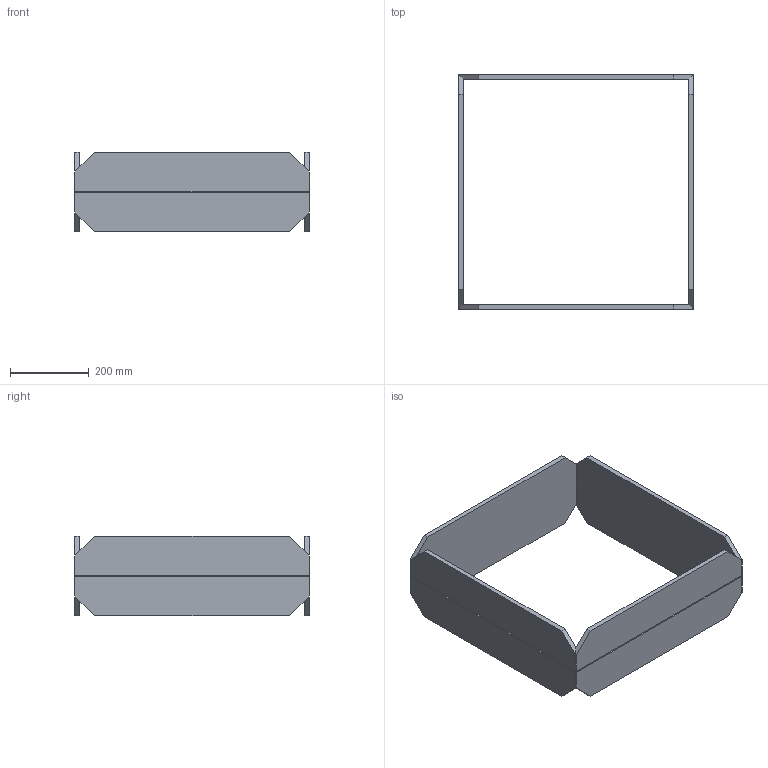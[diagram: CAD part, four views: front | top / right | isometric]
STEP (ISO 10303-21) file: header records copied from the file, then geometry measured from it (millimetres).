
FILE_DESCRIPTION(/* description */ (''),/* implementation_level */ '2;1');
FILE_NAME(/* name */ 'Profile_6',/* time_stamp */ '2026-07-07T12:55:22-05:00',/* author */ (''),/* organization */ (''),/* preprocessor_version */ 'ST-DEVELOPER v19.2',/* originating_system */ 'Rhino 8.32',/* authorisation */ '');
FILE_SCHEMA (('CONFIG_CONTROL_DESIGN'));
Length unit declared in the file: inch
Products named in the file (1): Document
Bounding box: 596.9 x 596.9 x 203.2 mm (x, y, z)
Volume: 5469088.8 mm3; surface area: 1019352.3 mm2
Topology: 4 solids, 4 shells, 56 faces, 149 edges, 106 vertices
Faces by surface type: plane 56
Entity records: 1605 total; most frequent: CARTESIAN_POINT 486, ORIENTED_EDGE 288, B_SPLINE_CURVE_WITH_KNOTS 149, EDGE_CURVE 144, VERTEX_POINT 96, DIRECTION 62, AXIS2_PLACEMENT_3D 59, ADVANCED_FACE 56
